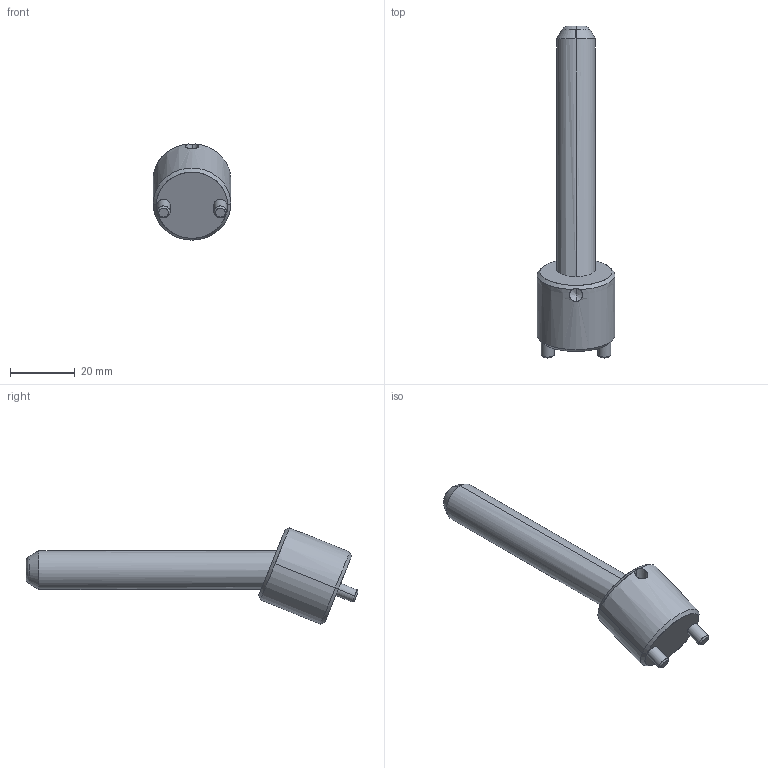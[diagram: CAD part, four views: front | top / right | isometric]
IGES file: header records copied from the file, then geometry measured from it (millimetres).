
Start section: START RECORD GO HERE.
Global section: file name: CI2212075.igs; native system: DASSAULT SYSTEMES CATIA V5 R20 - www.3ds.com; preprocessor: CATIA Version 5 Release 20 ; author: r.borello; organization: CFTORINO; date: 20190621.122023; units: millimetre
Bounding box: 24 x 102.46 x 29.7 mm (x, y, z)
Surface area: 7010.6 mm2 (no closed solid volume)
Topology: 0 solids, 0 shells, 39 faces, 168 edges, 166 vertices
Faces by surface type: revolution 32, plane 7
